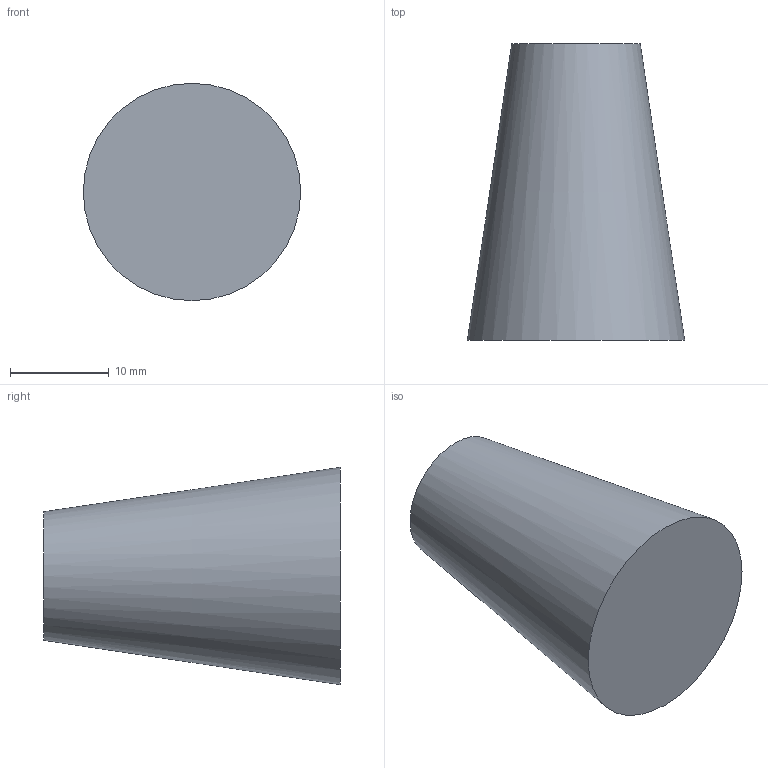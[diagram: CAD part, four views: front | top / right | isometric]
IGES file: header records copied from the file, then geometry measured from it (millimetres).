
Start section: Data from Parasolid IGES Translator 15.0.47, Copyright(c) 2006 Siemens P LM Software. All Rights Reserved.
Global section: file name: 9113565.igs; native system:  By UGS Corp.; preprocessor: XPlus GENERIC/IGES 3.0; author: Noname; organization: Noname; date: 20140122.174504; units: millimetre
Bounding box: 22 x 30 x 22 mm (x, y, z)
Surface area: 2268.6 mm2 (no closed solid volume)
Topology: 0 solids, 0 shells, 5 faces, 12 edges, 10 vertices
Faces by surface type: extrusion 3, revolution 2
